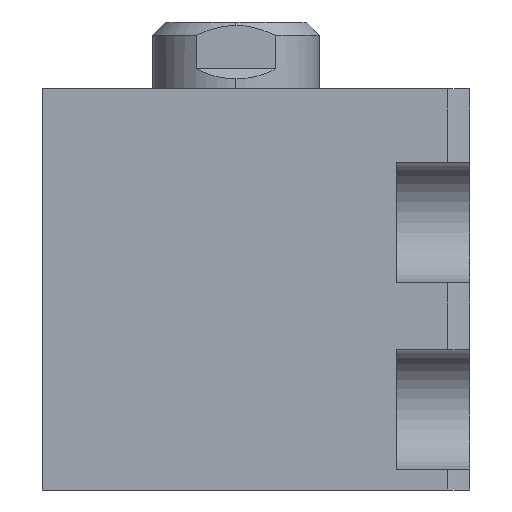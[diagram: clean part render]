
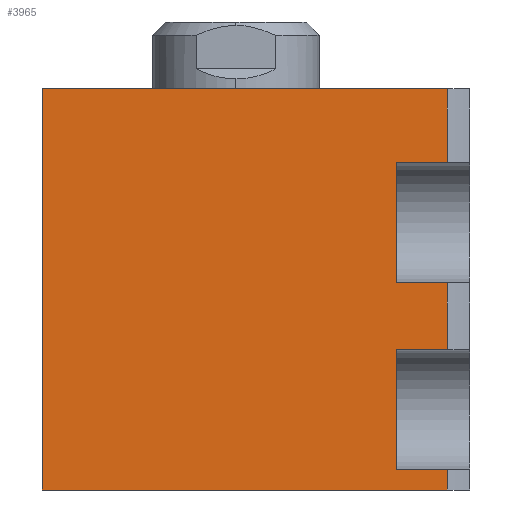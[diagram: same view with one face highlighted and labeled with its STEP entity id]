
A CAD part, left-side view. The second image highlights one B-rep face of the part: STEP entity #3965.
In plain terms, the highlighted planar face has unit normal (-1, 0, 0).
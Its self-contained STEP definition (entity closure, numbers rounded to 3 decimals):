
#322 = CARTESIAN_POINT ( 'NONE',  ( -40., -72.145, 3. ) ) ;
#338 = EDGE_CURVE ( 'NONE', #4524, #9068, #9455, .T. ) ;
#473 = DIRECTION ( 'NONE',  ( 0., -1., 0. ) ) ;
#501 = EDGE_CURVE ( 'NONE', #8223, #5867, #7222, .T. ) ;
#576 = VECTOR ( 'NONE', #9430, 1000. ) ;
#658 = ORIENTED_EDGE ( 'NONE', *, *, #977, .F. ) ;
#721 = ORIENTED_EDGE ( 'NONE', *, *, #1173, .F. ) ;
#723 = CARTESIAN_POINT ( 'NONE',  ( -40., -11.507, 60. ) ) ;
#778 = ORIENTED_EDGE ( 'NONE', *, *, #4554, .T. ) ;
#852 = VERTEX_POINT ( 'NONE', #3806 ) ;
#977 = EDGE_CURVE ( 'NONE', #1586, #5880, #8629, .T. ) ;
#1140 = CARTESIAN_POINT ( 'NONE',  ( -40., -64.507, 31. ) ) ;
#1173 = EDGE_CURVE ( 'NONE', #852, #2402, #1905, .T. ) ;
#1295 = LINE ( 'NONE', #3460, #7327 ) ;
#1378 = DIRECTION ( 'NONE',  ( 0., 0., -1. ) ) ;
#1454 = ORIENTED_EDGE ( 'NONE', *, *, #6944, .F. ) ;
#1586 = VERTEX_POINT ( 'NONE', #6409 ) ;
#1609 = VECTOR ( 'NONE', #8926, 1000. ) ;
#1820 = ORIENTED_EDGE ( 'NONE', *, *, #5089, .F. ) ;
#1905 = LINE ( 'NONE', #4744, #9680 ) ;
#2080 = EDGE_CURVE ( 'NONE', #6205, #5867, #1295, .T. ) ;
#2138 = EDGE_LOOP ( 'NONE', ( #721, #1454, #3009, #4300, #6310, #9252, #8537, #2976, #9801, #1820, #658, #778 ) ) ;
#2155 = CARTESIAN_POINT ( 'NONE',  ( -40., -64.507, 3. ) ) ;
#2280 = VECTOR ( 'NONE', #9465, 1000. ) ;
#2282 = DIRECTION ( 'NONE',  ( 1., 0., 0. ) ) ;
#2402 = VERTEX_POINT ( 'NONE', #6209 ) ;
#2572 = VECTOR ( 'NONE', #6406, 1000. ) ;
#2590 = VERTEX_POINT ( 'NONE', #4191 ) ;
#2911 = LINE ( 'NONE', #4378, #8449 ) ;
#2948 = CARTESIAN_POINT ( 'NONE',  ( -40., -72.145, 21. ) ) ;
#2976 = ORIENTED_EDGE ( 'NONE', *, *, #2080, .T. ) ;
#3009 = ORIENTED_EDGE ( 'NONE', *, *, #3411, .T. ) ;
#3095 = CARTESIAN_POINT ( 'NONE',  ( -40., -64.507, 21. ) ) ;
#3411 = EDGE_CURVE ( 'NONE', #6493, #4524, #3774, .T. ) ;
#3420 = CARTESIAN_POINT ( 'NONE',  ( -40., -64.507, 49. ) ) ;
#3460 = CARTESIAN_POINT ( 'NONE',  ( -40., -64.507, 21. ) ) ;
#3464 = VECTOR ( 'NONE', #8091, 1000. ) ;
#3558 = CARTESIAN_POINT ( 'NONE',  ( -40., -64.507, 21. ) ) ;
#3620 = CARTESIAN_POINT ( 'NONE',  ( -40., -72.145, 0. ) ) ;
#3774 = LINE ( 'NONE', #5613, #7778 ) ;
#3806 = CARTESIAN_POINT ( 'NONE',  ( -40., -72.145, 60. ) ) ;
#3945 = FACE_OUTER_BOUND ( 'NONE', #2138, .T. ) ;
#3965 = ADVANCED_FACE ( 'NONE', ( #3945 ), #4532, .F. ) ;
#3996 = VECTOR ( 'NONE', #8820, 1000. ) ;
#4191 = CARTESIAN_POINT ( 'NONE',  ( -40., -64.507, 3. ) ) ;
#4263 = VERTEX_POINT ( 'NONE', #322 ) ;
#4300 = ORIENTED_EDGE ( 'NONE', *, *, #338, .T. ) ;
#4319 = CARTESIAN_POINT ( 'NONE',  ( -40., -72.145, 31. ) ) ;
#4378 = CARTESIAN_POINT ( 'NONE',  ( -40., -11.507, 60. ) ) ;
#4499 = CARTESIAN_POINT ( 'NONE',  ( -40., -64.507, 31. ) ) ;
#4524 = VERTEX_POINT ( 'NONE', #5345 ) ;
#4532 = PLANE ( 'NONE',  #6908 ) ;
#4554 = EDGE_CURVE ( 'NONE', #1586, #2402, #6298, .T. ) ;
#4744 = CARTESIAN_POINT ( 'NONE',  ( -40., -72.145, -240. ) ) ;
#4868 = VECTOR ( 'NONE', #4894, 1000. ) ;
#4894 = DIRECTION ( 'NONE',  ( 0., 0., -1. ) ) ;
#4919 = CARTESIAN_POINT ( 'NONE',  ( -40., -72.145, -240. ) ) ;
#4988 = DIRECTION ( 'NONE',  ( 0., 0., -1. ) ) ;
#5089 = EDGE_CURVE ( 'NONE', #5880, #8223, #8630, .T. ) ;
#5113 = DIRECTION ( 'NONE',  ( 0., -1., 0. ) ) ;
#5345 = CARTESIAN_POINT ( 'NONE',  ( -40., -11.507, 0. ) ) ;
#5613 = CARTESIAN_POINT ( 'NONE',  ( -40., -11.507, 60. ) ) ;
#5627 = LINE ( 'NONE', #2155, #1609 ) ;
#5867 = VERTEX_POINT ( 'NONE', #2948 ) ;
#5880 = VERTEX_POINT ( 'NONE', #4499 ) ;
#6065 = DIRECTION ( 'NONE',  ( 0., -1., 0. ) ) ;
#6205 = VERTEX_POINT ( 'NONE', #3095 ) ;
#6209 = CARTESIAN_POINT ( 'NONE',  ( -40., -72.145, 49. ) ) ;
#6298 = LINE ( 'NONE', #8377, #2280 ) ;
#6310 = ORIENTED_EDGE ( 'NONE', *, *, #6623, .F. ) ;
#6406 = DIRECTION ( 'NONE',  ( 0., 0., -1. ) ) ;
#6409 = CARTESIAN_POINT ( 'NONE',  ( -40., -64.507, 49. ) ) ;
#6493 = VERTEX_POINT ( 'NONE', #9307 ) ;
#6623 = EDGE_CURVE ( 'NONE', #4263, #9068, #8566, .T. ) ;
#6908 = AXIS2_PLACEMENT_3D ( 'NONE', #723, #2282, #7547 ) ;
#6944 = EDGE_CURVE ( 'NONE', #6493, #852, #2911, .T. ) ;
#7222 = LINE ( 'NONE', #7639, #3464 ) ;
#7327 = VECTOR ( 'NONE', #473, 1000. ) ;
#7465 = VECTOR ( 'NONE', #6065, 1000. ) ;
#7547 = DIRECTION ( 'NONE',  ( 0., 1., 0. ) ) ;
#7639 = CARTESIAN_POINT ( 'NONE',  ( -40., -72.145, -240. ) ) ;
#7729 = EDGE_CURVE ( 'NONE', #2590, #4263, #5627, .T. ) ;
#7747 = LINE ( 'NONE', #3558, #3996 ) ;
#7778 = VECTOR ( 'NONE', #1378, 1000. ) ;
#8091 = DIRECTION ( 'NONE',  ( 0., 0., -1. ) ) ;
#8191 = EDGE_CURVE ( 'NONE', #6205, #2590, #7747, .T. ) ;
#8223 = VERTEX_POINT ( 'NONE', #4319 ) ;
#8377 = CARTESIAN_POINT ( 'NONE',  ( -40., -64.507, 49. ) ) ;
#8449 = VECTOR ( 'NONE', #5113, 1000. ) ;
#8537 = ORIENTED_EDGE ( 'NONE', *, *, #8191, .F. ) ;
#8566 = LINE ( 'NONE', #4919, #2572 ) ;
#8629 = LINE ( 'NONE', #3420, #4868 ) ;
#8630 = LINE ( 'NONE', #1140, #576 ) ;
#8820 = DIRECTION ( 'NONE',  ( 0., 0., -1. ) ) ;
#8926 = DIRECTION ( 'NONE',  ( 0., -1., 0. ) ) ;
#9068 = VERTEX_POINT ( 'NONE', #3620 ) ;
#9155 = CARTESIAN_POINT ( 'NONE',  ( -40., -11.507, 0. ) ) ;
#9252 = ORIENTED_EDGE ( 'NONE', *, *, #7729, .F. ) ;
#9307 = CARTESIAN_POINT ( 'NONE',  ( -40., -11.507, 60. ) ) ;
#9430 = DIRECTION ( 'NONE',  ( 0., -1., 0. ) ) ;
#9455 = LINE ( 'NONE', #9155, #7465 ) ;
#9465 = DIRECTION ( 'NONE',  ( 0., -1., 0. ) ) ;
#9680 = VECTOR ( 'NONE', #4988, 1000. ) ;
#9801 = ORIENTED_EDGE ( 'NONE', *, *, #501, .F. ) ;
